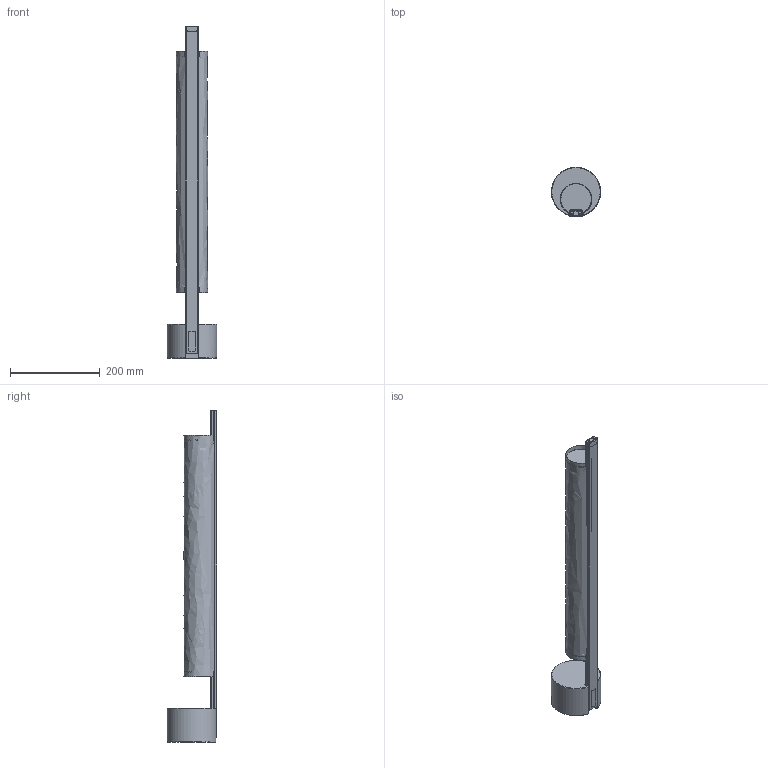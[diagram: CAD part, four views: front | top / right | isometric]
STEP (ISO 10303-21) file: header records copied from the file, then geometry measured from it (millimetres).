
FILE_DESCRIPTION(/* description */ (''),/* implementation_level */ '2;1');
FILE_NAME(/* name */ 'Ombra C160__.075',/* time_stamp */ '2025-05-26T16:15:40+02:00',/* author */ (''),/* organization */ (''),/* preprocessor_version */ 'ST-DEVELOPER v16.5',/* originating_system */ '',/* authorisation */ '');
FILE_SCHEMA (('AUTOMOTIVE_DESIGN'));
Length unit declared in the file: millimetre
Products named in the file (1): Document
Bounding box: 109.88 x 110.4 x 741.2 mm (x, y, z)
Volume: 896902.6 mm3; surface area: 399547.8 mm2
Topology: 6 solids, 6 shells, 318 faces, 882 edges, 569 vertices
Faces by surface type: bspline 165, plane 153
Entity records: 11609 total; most frequent: CARTESIAN_POINT 6320, ORIENTED_EDGE 1756, EDGE_CURVE 878, B_SPLINE_CURVE_WITH_KNOTS 587, VERTEX_POINT 569, EDGE_LOOP 337, ADVANCED_FACE 318, FACE_OUTER_BOUND 318
